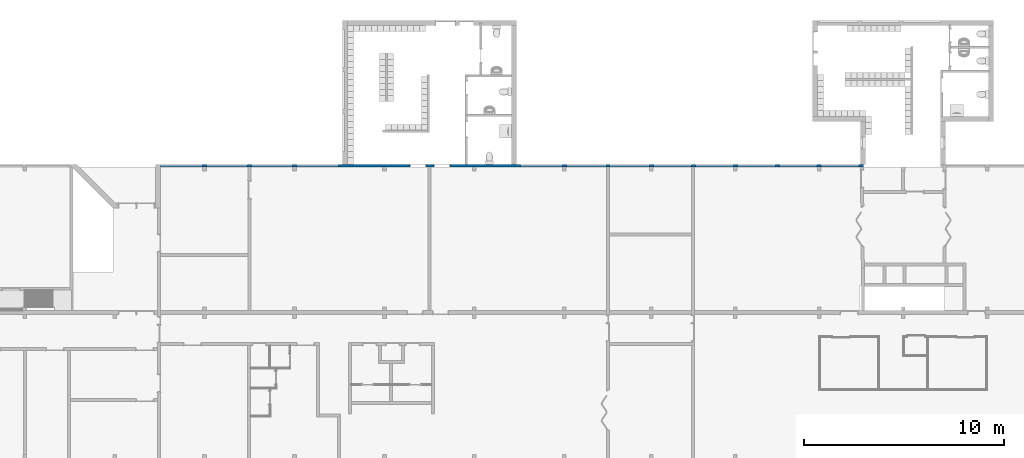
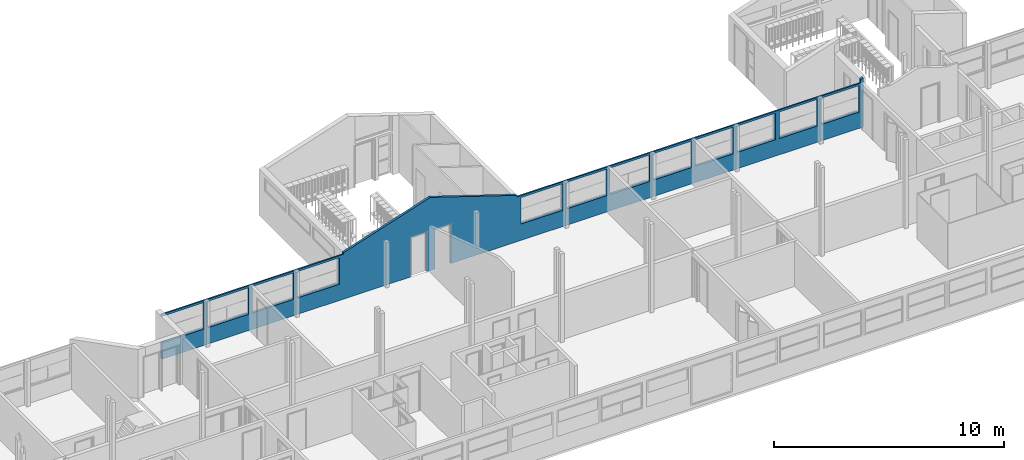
# One storey, part 23 of 48: 1 wall, 14 openings.
"""IFC2X3 building model written with IfcOpenShell, lengths in millimetres."""

from ifc_helpers import new_model, entity, si_unit, converted_unit, derived_unit, money_unit, direction, frame, origin_with_axes, place, context, subcontext, project, spatial, faceted_brep, material, type_object, element, save


model = new_model("IFC2X3")

# Units and contexts
model_context = context("Model", 3, precision=0.01, world=origin_with_axes(), true_north=direction((0.0, 1.0)))
body_context = subcontext(model_context, "Body", "Model", "MODEL_VIEW")
ifc_project = project(units=[si_unit("LENGTHUNIT", "METRE", prefix="MILLI"), si_unit("AREAUNIT", "SQUARE_METRE"), si_unit("VOLUMEUNIT", "CUBIC_METRE"), converted_unit("PLANEANGLEUNIT", "DEGREE", entity("IfcPlaneAngleMeasure", 0.0174532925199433), si_unit("PLANEANGLEUNIT", "RADIAN"), dimensions=[0, 0, 0, 0, 0, 0, 0]), money_unit("USD"), converted_unit("TIMEUNIT", "Year", entity("IfcTimeMeasure", 31557600.0), si_unit("TIMEUNIT", "SECOND"), dimensions=[0, 0, 1, 0, 0, 0, 0]), si_unit("MASSUNIT", "GRAM", prefix="KILO"), si_unit("THERMODYNAMICTEMPERATUREUNIT", "DEGREE_CELSIUS"), si_unit("LUMINOUSINTENSITYUNIT", "LUMEN"), si_unit("ENERGYUNIT", "JOULE", prefix="MEGA"), derived_unit("THERMALCONDUCTANCEUNIT", [(si_unit("POWERUNIT", "WATT"), 1), (si_unit("LENGTHUNIT", "METRE"), -1), (si_unit("THERMODYNAMICTEMPERATUREUNIT", "KELVIN"), -1)]), derived_unit("SPECIFICHEATCAPACITYUNIT", [(si_unit("ENERGYUNIT", "JOULE"), 1), (si_unit("MASSUNIT", "GRAM", prefix="KILO"), -1), (si_unit("THERMODYNAMICTEMPERATUREUNIT", "KELVIN"), -1)]), derived_unit("MASSDENSITYUNIT", [(si_unit("MASSUNIT", "GRAM", prefix="KILO"), 1), (si_unit("VOLUMEUNIT", "CUBIC_METRE"), -1)])], contexts=[model_context])

# Site, building, storey
site_placement = place(None, origin_with_axes())
site = spatial("IfcSite", under=ifc_project, at=site_placement, Name="Site", CompositionType="ELEMENT")
building_placement = place(site_placement, origin_with_axes())
building = spatial("IfcBuilding", under=site, at=building_placement, Name="Building", CompositionType="ELEMENT")
storey_placement = place(building_placement, frame((0.0, 0.0, 3300.0), z_axis=(0.0, 0.0, 1.0), x_axis=(1.0, 0.0, 0.0)))
storey = spatial("IfcBuildingStorey", under=building, at=storey_placement, Name="1 ETG", CompositionType="ELEMENT", Elevation=3300.0)

# Wall, openings
ifc_material = material(Name="GENERIC - STRUCTURAL")
wall_type = type_object("IfcWallType", Name="GENERIC - STRUCTURAL 120", PredefinedType="NOTDEFINED")
wall_placement = place(storey_placement, frame((24540.26965483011, 21799.95531338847, 0.0), z_axis=(0.0, 0.0, 1.0), x_axis=(0.9999999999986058, -1.669870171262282e-06, 0.0)))
wall = element("IfcWall", 1, at=wall_placement, inside=storey, type_object=wall_type, material=ifc_material, Name="SW - 001", context=body_context, shape_type="Brep", body=[
    faceted_brep([(260.0000000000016, 120.000000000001, 865.018749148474), (2359.730345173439, 120.000000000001, 865.018749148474), (2359.730345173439, 120.000000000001, 2265.018749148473), (260.0000000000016, 120.000000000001, 2265.018749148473), (260.0000000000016, 120.000000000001, 2340.167131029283), (9359.747043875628, 119.9999999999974, 2340.172063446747), (9359.747043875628, 120.000000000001, 2456.861212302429), (13709.74674273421, 120.000000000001, 3870.261804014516), (18059.74650696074, 120.000000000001, 2456.86120025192), (18059.74650696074, 120.000000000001, 2340.176778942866), (35285.19091063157, 120.000000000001, 2340.186115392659), (35285.19091063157, 120.000000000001, 2558.144358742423), (35420.79138662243, 120.0000000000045, 2602.209065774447), (35420.79138662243, 120.0000000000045, 2400.0), (35419.73014483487, 120.0000000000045, 2400.0), (35419.73014483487, 120.0000000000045, 0.0), (14737.9394595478, 120.000000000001, 0.0), (14737.9394595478, 120.0000000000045, 2100.0), (13937.9394595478, 120.0000000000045, 2100.0), (13937.9394595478, 120.000000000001, 0.0), (13537.9394595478, 120.000000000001, 0.0), (13537.9394595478, 120.0000000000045, 2100.0), (12737.9394595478, 120.0000000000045, 2100.0), (12737.9394595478, 120.000000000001, 0.0), (260.0000000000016, 120.000000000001, 0.0), (4809.730345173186, 120.000000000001, 2265.018749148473), (4809.730345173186, 120.000000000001, 865.018749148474), (6859.73034517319, 120.0000000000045, 865.018749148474), (6859.73034517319, 120.0000000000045, 2265.018749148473), (4609.730345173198, 120.000000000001, 2265.018749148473), (2559.730345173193, 120.000000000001, 2265.018749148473), (2559.730345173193, 120.000000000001, 865.018749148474), (4609.730345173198, 120.000000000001, 865.018749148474), (9159.730345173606, 120.0000000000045, 865.018749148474), (9159.730345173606, 120.0000000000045, 2265.018749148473), (7059.730345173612, 120.0000000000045, 2265.018749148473), (7059.730345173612, 120.0000000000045, 865.018749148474), (18259.73034517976, 120.000000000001, 865.018749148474), (20359.73034517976, 120.000000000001, 865.018749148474), (20359.73034517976, 120.000000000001, 2265.018749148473), (18259.73034517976, 120.000000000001, 2265.018749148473), (20559.73034517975, 120.000000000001, 2265.018749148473), (20559.73034517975, 120.000000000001, 865.018749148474), (22559.73034517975, 120.000000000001, 865.018749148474), (22559.73034517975, 120.000000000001, 2265.018749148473), (24709.73034520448, 120.000000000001, 2265.018749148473), (22709.73034520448, 120.000000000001, 2265.018749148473), (22709.73034520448, 120.000000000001, 865.018749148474), (24709.73034520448, 120.000000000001, 865.018749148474), (26809.73034518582, 120.0000000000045, 865.018749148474), (26809.73034518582, 120.0000000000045, 2265.018749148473), (24909.73034518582, 120.0000000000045, 2265.018749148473), (24909.73034518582, 120.0000000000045, 865.018749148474), (27009.7303451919, 120.000000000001, 865.018749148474), (28909.7303451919, 120.0000000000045, 865.018749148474), (28909.7303451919, 120.0000000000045, 2265.018749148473), (27009.7303451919, 120.000000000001, 2265.018749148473), (29109.73034521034, 120.000000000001, 2265.018749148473), (29109.73034521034, 120.000000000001, 865.018749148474), (31009.73034521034, 120.000000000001, 865.018749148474), (31009.73034521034, 120.000000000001, 2265.018749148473), (33109.73034519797, 119.9999999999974, 2265.018749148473), (31209.73034519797, 120.000000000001, 2265.018749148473), (31209.73034519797, 120.000000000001, 865.018749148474), (33109.73034519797, 119.9999999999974, 865.018749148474), (35209.73034521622, 120.0000000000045, 865.018749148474), (35209.73034521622, 120.0000000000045, 2265.018749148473), (33309.73034521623, 120.0000000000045, 2265.018749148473), (33309.73034521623, 120.0000000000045, 865.018749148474), (260.0000000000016, 0.0, 865.018749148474), (2359.730345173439, 0.0, 865.018749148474), (2359.730345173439, 0.0, 2265.018749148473), (260.0000000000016, 0.0, 2265.018749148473), (260.0000000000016, 0.0, 2379.117063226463), (9359.747244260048, 0.0, 2379.121995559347), (9359.747244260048, 0.0, 2456.861212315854), (13709.74694257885, 0.0, 3870.261804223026), (18059.74670734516, 0.0, 2456.861200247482), (18059.74670734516, 0.0, 2379.126711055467), (35285.19111101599, 0.0, 2379.136047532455), (35285.19111101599, 0.0, 2558.144358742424), (35420.79138662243, 0.0, 2602.209000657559), (35420.79138662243, 0.0, 2400.0), (35420.79138662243, 0.0, 0.0), (14737.9394595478, 0.0, 0.0), (14737.9394595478, 0.0, 2100.0), (13937.9394595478, 0.0, 2100.0), (13937.9394595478, 0.0, 0.0), (13537.9394595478, 0.0, 0.0), (13537.9394595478, 0.0, 2100.0), (12737.9394595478, 0.0, 2100.0), (12737.9394595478, 0.0, 0.0), (260.0000000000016, 0.0, 0.0), (4809.730345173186, 0.0, 865.018749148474), (4809.730345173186, 0.0, 2265.018749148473), (6859.73034517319, 0.0, 865.018749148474), (6859.73034517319, 0.0, 2265.018749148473), (4609.730345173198, 0.0, 2265.018749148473), (2559.730345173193, 0.0, 2265.018749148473), (2559.730345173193, 0.0, 865.018749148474), (4609.730345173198, 0.0, 865.018749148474), (9159.730345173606, 0.0, 865.018749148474), (9159.730345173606, 0.0, 2265.018749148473), (7059.730345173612, 0.0, 2265.018749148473), (7059.730345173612, 0.0, 865.018749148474), (18259.73034517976, 0.0, 865.018749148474), (20359.73034517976, 0.0, 865.018749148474), (20359.73034517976, 0.0, 2265.018749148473), (18259.73034517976, 0.0, 2265.018749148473), (20559.73034517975, 0.0, 865.018749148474), (20559.73034517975, 0.0, 2265.018749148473), (22559.73034517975, 0.0, 865.018749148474), (22559.73034517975, 0.0, 2265.018749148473), (24709.73034520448, 0.0, 2265.018749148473), (22709.73034520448, 0.0, 2265.018749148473), (22709.73034520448, 0.0, 865.018749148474), (24709.73034520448, 0.0, 865.018749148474), (26809.73034518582, 0.0, 865.018749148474), (26809.73034518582, 0.0, 2265.018749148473), (24909.73034518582, 0.0, 2265.018749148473), (24909.73034518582, 0.0, 865.018749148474), (27009.7303451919, 0.0, 865.018749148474), (28909.7303451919, 0.0, 865.018749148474), (28909.7303451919, 0.0, 2265.018749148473), (27009.7303451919, 0.0, 2265.018749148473), (29109.73034521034, 0.0, 865.018749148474), (29109.73034521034, 0.0, 2265.018749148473), (31009.73034521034, 0.0, 865.018749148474), (31009.73034521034, 0.0, 2265.018749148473), (33109.73034519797, 0.0, 2265.018749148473), (31209.73034519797, 0.0, 2265.018749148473), (31209.73034519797, 0.0, 865.018749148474), (33109.73034519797, 0.0, 865.018749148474), (35209.73034521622, 0.0, 865.018749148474), (35209.73034521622, 0.0, 2265.018749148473), (33309.73034521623, 0.0, 2265.018749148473), (33309.73034521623, 0.0, 865.018749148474)], [[[0, 1, 2, 3, 4, 5, 6, 7, 8, 9, 10, 11, 12, 13, 14, 15, 16, 17, 18, 19, 20, 21, 22, 23, 24], [25, 26, 27, 28], [29, 30, 31, 32], [33, 34, 35, 36], [37, 38, 39, 40], [41, 42, 43, 44], [45, 46, 47, 48], [49, 50, 51, 52], [53, 54, 55, 56], [57, 58, 59, 60], [61, 62, 63, 64], [65, 66, 67, 68]], [[1, 0, 69, 70]], [[2, 1, 70, 71]], [[3, 2, 71, 72]], [[3, 72, 73, 4]], [[74, 5, 4, 73]], [[75, 6, 5, 74]], [[75, 76, 7, 6]], [[77, 8, 7, 76]], [[78, 9, 8, 77]], [[79, 10, 9, 78]], [[80, 11, 10, 79]], [[80, 81, 12, 11]], [[13, 12, 81, 82]], [[82, 14, 13]], [[82, 83, 15, 14]], [[83, 84, 16, 15]], [[85, 17, 16, 84]], [[86, 18, 17, 85]], [[87, 19, 18, 86]], [[20, 19, 87, 88]], [[21, 20, 88, 89]], [[22, 21, 89, 90]], [[23, 22, 90, 91]], [[23, 91, 92, 24]], [[69, 0, 24, 92]], [[93, 26, 25, 94]], [[95, 27, 26, 93]], [[96, 28, 27, 95]], [[94, 25, 28, 96]], [[97, 98, 30, 29]], [[98, 99, 31, 30]], [[99, 100, 32, 31]], [[100, 97, 29, 32]], [[33, 101, 102, 34]], [[34, 102, 103, 35]], [[35, 103, 104, 36]], [[36, 104, 101, 33]], [[38, 37, 105, 106]], [[39, 38, 106, 107]], [[40, 39, 107, 108]], [[37, 40, 108, 105]], [[109, 42, 41, 110]], [[111, 43, 42, 109]], [[112, 44, 43, 111]], [[110, 41, 44, 112]], [[113, 114, 46, 45]], [[114, 115, 47, 46]], [[115, 116, 48, 47]], [[116, 113, 45, 48]], [[49, 117, 118, 50]], [[50, 118, 119, 51]], [[51, 119, 120, 52]], [[52, 120, 117, 49]], [[54, 53, 121, 122]], [[55, 54, 122, 123]], [[56, 55, 123, 124]], [[53, 56, 124, 121]], [[125, 58, 57, 126]], [[127, 59, 58, 125]], [[128, 60, 59, 127]], [[126, 57, 60, 128]], [[129, 130, 62, 61]], [[130, 131, 63, 62]], [[131, 132, 64, 63]], [[132, 129, 61, 64]], [[65, 133, 134, 66]], [[66, 134, 135, 67]], [[67, 135, 136, 68]], [[68, 136, 133, 65]], [[70, 69, 92, 91, 90, 89, 88, 87, 86, 85, 84, 83, 82, 81, 80, 79, 78, 77, 76, 75, 74, 73, 72, 71], [95, 93, 94, 96], [97, 100, 99, 98], [103, 102, 101, 104], [105, 108, 107, 106], [111, 109, 110, 112], [113, 116, 115, 114], [119, 118, 117, 120], [121, 124, 123, 122], [127, 125, 126, 128], [129, 132, 131, 130], [135, 134, 133, 136]]]),
])
opening_1_placement = place(wall_placement, frame((5834.730345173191, 0.0, 865.018749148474), z_axis=(0.0, 0.0, 1.0), x_axis=(1.0, 0.0, 0.0)))
element("IfcOpeningElement", 2, at=opening_1_placement, cuts=wall, Name="WD - 001", context=body_context, shape_type="Brep", body=[
    faceted_brep([(-1025.000000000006, -1.0591481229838, 1400.0), (-1025.000000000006, -1.0591481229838, 0.0), (1024.999999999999, -1.0591481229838, 0.0), (1024.999999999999, -1.0591481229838, 1400.0), (-1025.000000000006, 121.0591481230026, 1400.0), (-1025.000000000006, 121.0591481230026, 0.0), (1024.999999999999, 121.0591481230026, 0.0), (1024.999999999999, 121.0591481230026, 1400.0)], [[[0, 1, 2, 3]], [[4, 5, 1, 0]], [[5, 6, 2, 1]], [[6, 7, 3, 2]], [[7, 4, 0, 3]], [[6, 5, 4, 7]]]),
])
opening_2_placement = place(wall_placement, frame((3584.730345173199, 0.0, 865.018749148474), z_axis=(0.0, 0.0, 1.0), x_axis=(1.0, 0.0, 0.0)))
element("IfcOpeningElement", 3, at=opening_2_placement, cuts=wall, Name="WD - 001", context=body_context, shape_type="Brep", body=[
    faceted_brep([(-1025.000000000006, -1.0591481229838, 1400.0), (-1025.000000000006, -1.0591481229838, 0.0), (1024.999999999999, -1.0591481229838, 0.0), (1024.999999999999, -1.0591481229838, 1400.0), (-1025.000000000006, 121.0591481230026, 1400.0), (-1025.000000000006, 121.0591481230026, 0.0), (1024.999999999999, 121.0591481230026, 0.0), (1024.999999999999, 121.0591481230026, 1400.0)], [[[0, 1, 2, 3]], [[4, 5, 1, 0]], [[5, 6, 2, 1]], [[6, 7, 3, 2]], [[7, 4, 0, 3]], [[6, 5, 4, 7]]]),
])
opening_3_placement = place(wall_placement, frame((8109.73034517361, 0.0, 865.018749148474), z_axis=(0.0, 0.0, 1.0), x_axis=(1.0, 0.0, 0.0)))
element("IfcOpeningElement", 4, at=opening_3_placement, cuts=wall, Name="WD - 001", context=body_context, shape_type="Brep", body=[
    faceted_brep([(-1049.999999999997, -1.0591481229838, 1400.0), (-1049.999999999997, -1.0591481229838, 0.0), (1049.999999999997, -1.0591481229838, 0.0), (1049.999999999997, -1.0591481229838, 1400.0), (-1049.999999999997, 121.0591481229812, 1400.0), (-1049.999999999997, 121.0591481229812, 0.0), (1049.999999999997, 121.0591481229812, 0.0), (1049.999999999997, 121.0591481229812, 1400.0)], [[[0, 1, 2, 3]], [[4, 5, 1, 0]], [[5, 6, 2, 1]], [[6, 7, 3, 2]], [[7, 4, 0, 3]], [[6, 5, 4, 7]]]),
])
opening_4_placement = place(wall_placement, frame((19309.73034517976, 0.0, 865.018749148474), z_axis=(0.0, 0.0, 1.0), x_axis=(1.0, 0.0, 0.0)))
element("IfcOpeningElement", 5, at=opening_4_placement, cuts=wall, Name="WD - 001", context=body_context, shape_type="Brep", body=[
    faceted_brep([(-1049.999999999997, -1.0591481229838, 1400.0), (-1049.999999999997, -1.0591481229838, 0.0), (1049.999999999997, -1.0591481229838, 0.0), (1049.999999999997, -1.0591481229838, 1400.0), (-1049.999999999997, 121.0591481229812, 1400.0), (-1049.999999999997, 121.0591481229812, 0.0), (1050.000000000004, 121.0591481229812, 0.0), (1050.000000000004, 121.0591481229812, 1400.0)], [[[0, 1, 2, 3]], [[4, 5, 1, 0]], [[5, 6, 2, 1]], [[6, 7, 3, 2]], [[7, 4, 0, 3]], [[6, 5, 4, 7]]]),
])
opening_5_placement = place(wall_placement, frame((1309.730345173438, 0.0, 865.018749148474), z_axis=(0.0, 0.0, 1.0), x_axis=(1.0, 0.0, 0.0)))
element("IfcOpeningElement", 6, at=opening_5_placement, cuts=wall, Name="WD - 001", context=body_context, shape_type="Brep", body=[
    faceted_brep([(-1047.435524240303, -1.059148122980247, 0.0), (1050.000000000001, -1.059148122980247, 0.0), (1050.000000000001, -1.059148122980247, 1400.0), (-1047.435524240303, -1.059148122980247, 1400.0), (-1049.999999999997, 121.0591481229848, 0.0), (1050.000000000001, 121.0591481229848, 0.0), (-1049.999999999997, 0.1244560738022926, 0.0), (1050.000000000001, 121.0591481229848, 1400.0), (-1049.999999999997, 121.0591481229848, 1400.0), (-1049.999999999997, 0.1244560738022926, 1400.0)], [[[0, 1, 2, 3]], [[4, 5, 1, 0, 6]], [[5, 7, 2, 1]], [[7, 8, 9, 3, 2]], [[0, 3, 9, 6]], [[5, 4, 8, 7]], [[8, 4, 6, 9]]]),
])
opening_6_placement = place(wall_placement, frame((21559.73034517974, 0.0, 865.018749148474), z_axis=(0.0, 0.0, 1.0), x_axis=(1.0, 0.0, 0.0)))
element("IfcOpeningElement", 7, at=opening_6_placement, cuts=wall, Name="WD - 001", context=body_context, shape_type="Brep", body=[
    faceted_brep([(-999.999999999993, -1.059148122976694, 1400.0), (-999.999999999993, -1.059148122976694, 0.0), (1000.000000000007, -1.059148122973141, 0.0), (1000.000000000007, -1.059148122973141, 1400.0), (-999.999999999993, 121.0591481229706, 1400.0), (-999.999999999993, 121.0591481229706, 0.0), (1000.000000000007, 121.0591481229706, 0.0), (1000.000000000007, 121.0591481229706, 1400.0)], [[[0, 1, 2, 3]], [[4, 5, 1, 0]], [[5, 6, 2, 1]], [[6, 7, 3, 2]], [[7, 4, 0, 3]], [[6, 5, 4, 7]]]),
])
opening_7_placement = place(wall_placement, frame((23709.73034520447, 0.0, 865.018749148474), z_axis=(0.0, 0.0, 1.0), x_axis=(1.0, 0.0, 0.0)))
element("IfcOpeningElement", 8, at=opening_7_placement, cuts=wall, Name="WD - 001", context=body_context, shape_type="Brep", body=[
    faceted_brep([(-999.999999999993, -1.059148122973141, 1400.0), (-999.999999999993, -1.059148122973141, 0.0), (1000.000000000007, -1.059148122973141, 0.0), (1000.000000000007, -1.059148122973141, 1400.0), (-999.999999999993, 121.0591481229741, 1400.0), (-999.999999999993, 121.0591481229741, 0.0), (1000.000000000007, 121.0591481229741, 0.0), (1000.000000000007, 121.0591481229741, 1400.0)], [[[0, 1, 2, 3]], [[4, 5, 1, 0]], [[5, 6, 2, 1]], [[6, 7, 3, 2]], [[7, 4, 0, 3]], [[6, 5, 4, 7]]]),
])
opening_8_placement = place(wall_placement, frame((25859.73034518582, 0.0, 865.018749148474), z_axis=(0.0, 0.0, 1.0), x_axis=(1.0, 0.0, 0.0)))
element("IfcOpeningElement", 9, at=opening_8_placement, cuts=wall, Name="WD - 001", context=body_context, shape_type="Brep", body=[
    faceted_brep([(-950.0000000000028, -1.059148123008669, 1400.0), (-950.0000000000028, -1.059148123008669, 0.0), (949.9999999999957, -1.059148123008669, 0.0), (949.9999999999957, -1.059148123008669, 1400.0), (-950.0000000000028, 121.0591481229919, 1400.0), (-950.0000000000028, 121.0591481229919, 0.0), (949.9999999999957, 121.0591481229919, 0.0), (949.9999999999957, 121.0591481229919, 1400.0)], [[[0, 1, 2, 3]], [[4, 5, 1, 0]], [[5, 6, 2, 1]], [[6, 7, 3, 2]], [[7, 4, 0, 3]], [[6, 5, 4, 7]]]),
])
opening_9_placement = place(wall_placement, frame((27959.7303451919, 0.0, 865.018749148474), z_axis=(0.0, 0.0, 1.0), x_axis=(1.0, 0.0, 0.0)))
element("IfcOpeningElement", 10, at=opening_9_placement, cuts=wall, Name="WD - 001", context=body_context, shape_type="Brep", body=[
    faceted_brep([(-950.0000000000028, -1.059148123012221, 1400.0), (-950.0000000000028, -1.059148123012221, 0.0), (949.9999999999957, -1.059148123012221, 0.0), (949.9999999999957, -1.059148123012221, 1400.0), (-950.0000000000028, 121.0591481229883, 1400.0), (-950.0000000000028, 121.0591481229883, 0.0), (949.9999999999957, 121.0591481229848, 0.0), (949.9999999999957, 121.0591481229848, 1400.0)], [[[0, 1, 2, 3]], [[4, 5, 1, 0]], [[5, 6, 2, 1]], [[6, 7, 3, 2]], [[7, 4, 0, 3]], [[6, 5, 4, 7]]]),
])
opening_10_placement = place(wall_placement, frame((30059.73034521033, 0.0, 865.018749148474), z_axis=(0.0, 0.0, 1.0), x_axis=(1.0, 0.0, 0.0)))
element("IfcOpeningElement", 11, at=opening_10_placement, cuts=wall, Name="WD - 001", context=body_context, shape_type="Brep", body=[
    faceted_brep([(-949.9999999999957, -1.059148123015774, 1400.0), (-949.9999999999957, -1.059148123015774, 0.0), (950.0000000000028, -1.059148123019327, 0.0), (950.0000000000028, -1.059148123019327, 1400.0), (-949.9999999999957, 121.0591481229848, 1400.0), (-949.9999999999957, 121.0591481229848, 0.0), (950.0000000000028, 121.0591481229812, 0.0), (950.0000000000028, 121.0591481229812, 1400.0)], [[[0, 1, 2, 3]], [[4, 5, 1, 0]], [[5, 6, 2, 1]], [[6, 7, 3, 2]], [[7, 4, 0, 3]], [[6, 5, 4, 7]]]),
])
opening_11_placement = place(wall_placement, frame((34259.73034521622, 0.0, 865.018749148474), z_axis=(0.0, 0.0, 1.0), x_axis=(1.0, 0.0, 0.0)))
element("IfcOpeningElement", 12, at=opening_11_placement, cuts=wall, Name="WD - 001", context=body_context, shape_type="Brep", body=[
    faceted_brep([(-949.9999999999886, -1.059148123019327, 1400.0), (-949.9999999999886, -1.059148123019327, 0.0), (950.0000000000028, -1.059148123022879, 0.0), (950.0000000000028, -1.059148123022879, 1400.0), (-949.9999999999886, 121.0591481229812, 1400.0), (-949.9999999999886, 121.0591481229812, 0.0), (950.0000000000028, 121.0591481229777, 0.0), (950.0000000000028, 121.0591481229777, 1400.0)], [[[0, 1, 2, 3]], [[4, 5, 1, 0]], [[5, 6, 2, 1]], [[6, 7, 3, 2]], [[7, 4, 0, 3]], [[6, 5, 4, 7]]]),
])
opening_12_placement = place(wall_placement, frame((13137.9394595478, 0.0, 0.0), z_axis=(0.0, 0.0, 1.0), x_axis=(1.0, 0.0, 0.0)))
element("IfcOpeningElement", 13, at=opening_12_placement, cuts=wall, Name="DOO - 002", context=body_context, shape_type="Brep", body=[
    faceted_brep([(-400.0000000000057, 121.0591481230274, 2100.0), (399.9999999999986, 121.0591481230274, 2100.0), (399.9999999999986, 121.0591481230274, 0.0), (-400.0000000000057, 121.0591481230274, 0.0), (-436.9999999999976, 121.0591481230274, 0.0), (-436.9999999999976, 121.0591481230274, 2137.0), (437.0000000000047, 121.0591481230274, 2137.0), (437.0000000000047, 121.0591481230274, 0.0), (-400.0000000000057, 120.000000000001, 0.0), (399.9999999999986, 120.000000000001, 0.0), (399.9999999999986, 0.0, 0.0), (399.9999999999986, -1.059148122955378, 0.0), (-400.0000000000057, -1.059148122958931, 0.0), (-400.0000000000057, 0.0, 0.0), (-436.9999999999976, 120.000000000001, 0.0), (-436.9999999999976, 120.000000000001, 2137.0), (437.0000000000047, 120.000000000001, 2137.0), (437.0000000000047, 120.000000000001, 0.0), (399.9999999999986, 120.000000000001, 2100.0), (399.9999999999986, 0.0, 2100.0), (437.0000000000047, 0.0, 0.0), (437.0000000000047, -1.059148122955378, 0.0), (437.0000000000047, -1.059148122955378, 2137.0), (-436.9999999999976, -1.059148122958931, 2137.0), (-436.9999999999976, -1.059148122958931, 0.0), (-436.9999999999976, 0.0, 0.0), (-400.0000000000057, 120.000000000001, 2100.0), (-400.0000000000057, 0.0, 2100.0), (-436.9999999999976, 0.0, 2137.0), (437.0000000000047, 0.0, 2137.0)], [[[0, 1, 2, 3]], [[2, 1, 0, 3, 4, 5, 6, 7]], [[8, 3, 2, 9, 10, 11, 12, 13]], [[3, 8, 14, 4]], [[14, 15, 5, 4]], [[15, 16, 6, 5]], [[16, 17, 7, 6]], [[9, 2, 7, 17]], [[9, 18, 19, 10]], [[11, 10, 20, 21]], [[12, 11, 21, 22, 23, 24]], [[13, 12, 24, 25]], [[26, 8, 13, 27]], [[26, 18, 9, 17, 16, 15, 14, 8]], [[18, 26, 27, 19]], [[10, 19, 27, 13, 25, 28, 29, 20]], [[20, 29, 22, 21]], [[29, 28, 23, 22]], [[28, 25, 24, 23]]]),
])
opening_13_placement = place(wall_placement, frame((14337.9394595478, 0.0, 0.0), z_axis=(0.0, 0.0, 1.0), x_axis=(1.0, 0.0, 0.0)))
element("IfcOpeningElement", 14, at=opening_13_placement, cuts=wall, Name="DOO - 002", context=body_context, shape_type="Brep", body=[
    faceted_brep([(-399.9999999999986, 121.0591481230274, 2100.0), (400.0000000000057, 121.0591481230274, 2100.0), (400.0000000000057, 121.0591481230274, 0.0), (-399.9999999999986, 121.0591481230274, 0.0), (-436.9999999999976, 121.0591481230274, 0.0), (-436.9999999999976, 121.0591481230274, 2137.0), (437.0000000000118, 121.0591481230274, 2137.0), (437.0000000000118, 121.0591481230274, 0.0), (-399.9999999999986, 120.000000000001, 0.0), (400.0000000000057, 120.000000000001, 0.0), (400.0000000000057, 0.0, 0.0), (400.0000000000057, -1.059148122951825, 0.0), (-399.9999999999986, -1.059148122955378, 0.0), (-399.9999999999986, 0.0, 0.0), (-436.9999999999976, 120.000000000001, 0.0), (-436.9999999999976, 120.000000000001, 2137.0), (437.0000000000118, 120.000000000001, 2137.0), (437.0000000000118, 120.000000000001, 0.0), (400.0000000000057, 120.000000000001, 2100.0), (400.0000000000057, 0.0, 2100.0), (437.0000000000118, 0.0, 0.0), (437.0000000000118, -1.059148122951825, 0.0), (437.0000000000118, -1.059148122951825, 2137.0), (-436.9999999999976, -1.059148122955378, 2137.0), (-436.9999999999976, -1.059148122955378, 0.0), (-436.9999999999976, 0.0, 0.0), (-399.9999999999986, 120.000000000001, 2100.0), (-399.9999999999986, 0.0, 2100.0), (-436.9999999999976, 0.0, 2137.0), (437.0000000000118, 0.0, 2137.0)], [[[0, 1, 2, 3]], [[2, 1, 0, 3, 4, 5, 6, 7]], [[8, 3, 2, 9, 10, 11, 12, 13]], [[3, 8, 14, 4]], [[14, 15, 5, 4]], [[15, 16, 6, 5]], [[16, 17, 7, 6]], [[9, 2, 7, 17]], [[9, 18, 19, 10]], [[11, 10, 20, 21]], [[12, 11, 21, 22, 23, 24]], [[13, 12, 24, 25]], [[26, 8, 13, 27]], [[26, 18, 9, 17, 16, 15, 14, 8]], [[18, 26, 27, 19]], [[10, 19, 27, 13, 25, 28, 29, 20]], [[20, 29, 22, 21]], [[29, 28, 23, 22]], [[28, 25, 24, 23]]]),
])
opening_14_placement = place(wall_placement, frame((32159.73034519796, 0.0, 865.018749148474), z_axis=(0.0, 0.0, 1.0), x_axis=(1.0, 0.0, 0.0)))
element("IfcOpeningElement", 15, at=opening_14_placement, cuts=wall, Name="WD - 001", context=body_context, shape_type="Brep", body=[
    faceted_brep([(-949.9999999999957, -1.059148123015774, 1400.0), (-949.9999999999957, -1.059148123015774, 0.0), (950.0000000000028, -1.059148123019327, 0.0), (950.0000000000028, -1.059148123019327, 1400.0), (-949.9999999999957, 121.0591481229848, 1400.0), (-949.9999999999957, 121.0591481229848, 0.0), (950.0000000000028, 121.0591481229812, 0.0), (950.0000000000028, 121.0591481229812, 1400.0)], [[[0, 1, 2, 3]], [[4, 5, 1, 0]], [[5, 6, 2, 1]], [[6, 7, 3, 2]], [[7, 4, 0, 3]], [[6, 5, 4, 7]]]),
])

save(model, "model.ifc")
